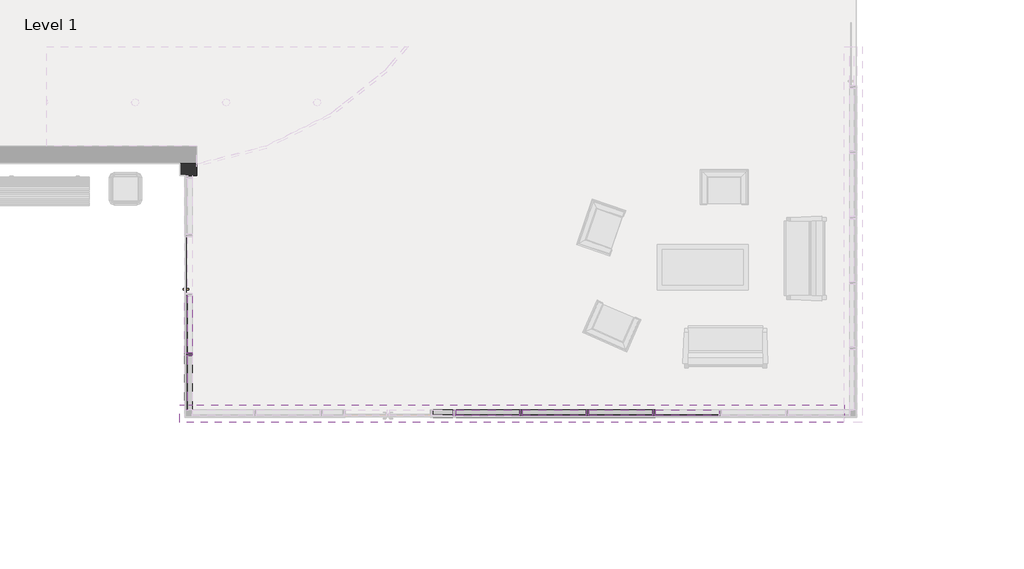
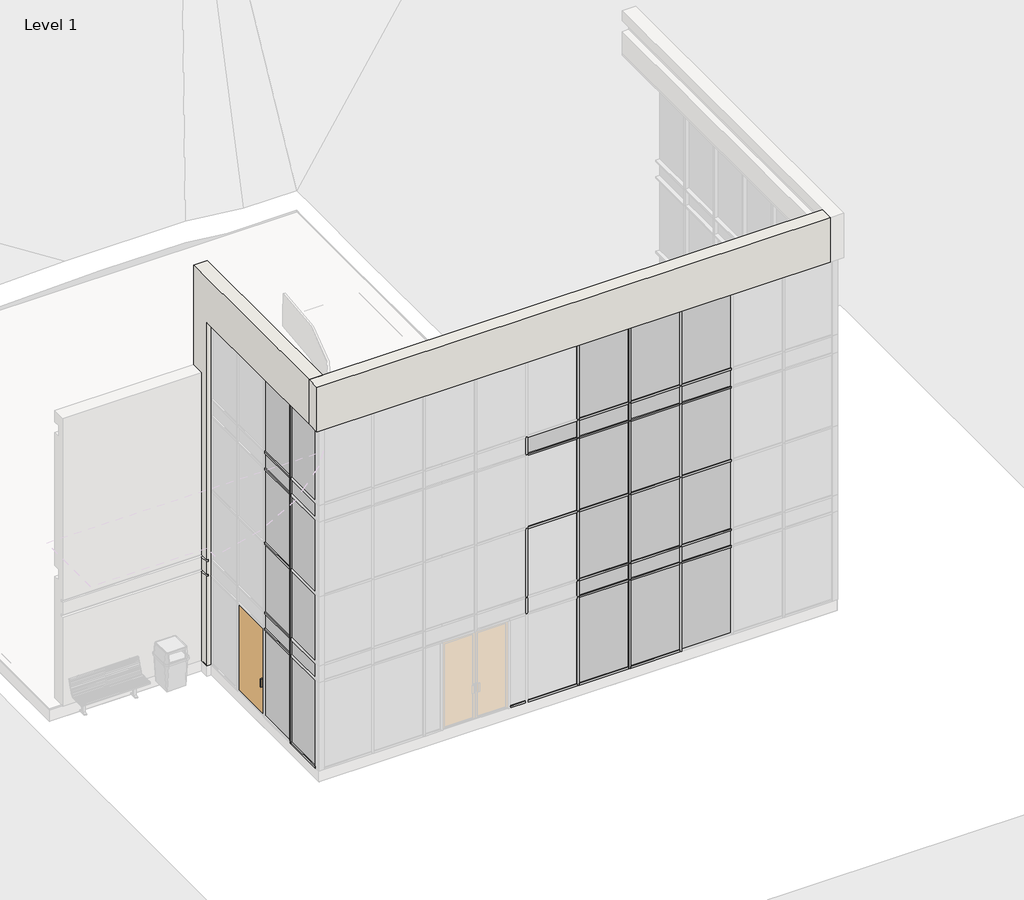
# One storey, part 2 of 6: 58 members, 31 plates, 2 walls, 1 door.
"""IFC4 building model written with IfcOpenShell, lengths in millimetres."""

from ifc_helpers import new_model, si_unit, frame, origin, place, context, project, spatial, circle_curve, faceted_brep, transform, mapped, element, save
from ifc_brep_helpers import plane_surface, cylinder_surface, advanced_brep
from components import curtain_wall_sgl_glass_curtain_wall_sgl_glass_863aa467, rectangular_mullion_50_x_150mm_9277cc62, rectangular_mullion_50_x_150mm_169d2d5c, rectangular_mullion_50_x_150mm_a98d9a75, rectangular_mullion_50_x_150mm_e5e1dcca, rectangular_mullion_50_x_150mm_47c0eb49, rectangular_mullion_50_x_150mm_2677f012, rectangular_mullion_50_x_150mm_55a91b40, rectangular_mullion_50_x_150mm_f9e96e8e, rectangular_mullion_50_x_150mm_1c0c8fcc, rectangular_mullion_50_x_150mm_5d9cdbe7, rectangular_mullion_50_x_150mm_6df5bc23, rectangular_mullion_50_x_150mm_c664ab49, rectangular_mullion_50_x_150mm_22f77a7a, system_panel_glazed_ba6276c6, system_panel_glazed_2755e160, system_panel_glazed_d3095f7c, system_panel_glazed_9a941065, system_panel_glazed_23c7b05c, system_panel_glazed_fb6efac8, system_panel_glazed_b5f236a0, system_panel_glazed_aa2b9898, system_panel_glazed_3706a5cf, system_panel_glazed_fdcf631f, system_panel_glazed_b287760b, system_panel_glazed_29643dd6, system_panel_glazed_af9e971b, system_panel_glazed_48c6fd0a, system_panel_glazed_b5705625, system_panel_glazed_869bd01b

model = new_model("IFC4")

# Units and contexts
model_context = context("Model", 3, world=origin())
ifc_project = project(units=[si_unit("LENGTHUNIT", "METRE", prefix="MILLI")], contexts=[model_context])

# Site, building, storey
site = spatial("IfcSite", under=ifc_project)
building = spatial("IfcBuilding", under=site)
storey = spatial("IfcBuildingStorey", under=building, Name="Level 1", Elevation=45720.0)

# Door
placement = place(None, origin())
curtain_wall_sgl_glass_curtain_wall_sgl_glass_shape = curtain_wall_sgl_glass_curtain_wall_sgl_glass_863aa467(model_context)
element("IfcDoor", 1, ObjectType="Curtain Wall Sgl Glass : Curtain Wall Sgl Glass", at=placement, inside=storey, context=model_context, shape_type="MappedRepresentation", body=[
    mapped(curtain_wall_sgl_glass_curtain_wall_sgl_glass_shape, transform((-10125.6188072, -5116.8998862, 45720.0), x_axis=(0.0, 1.0, 0.0), y_axis=(-1.0, 0.0, 0.0), z_axis=(0.0, 0.0, 1.0))),
])

# Members
rectangular_mullion_50_x_150mm_shape = rectangular_mullion_50_x_150mm_9277cc62(model_context)
element("IfcMember", 2, ObjectType="Rectangular Mullion : 50 x 150mm", at=placement, inside=storey, context=model_context, shape_type="MappedRepresentation", body=[
    mapped(rectangular_mullion_50_x_150mm_shape, transform((-10125.6188072, -6887.3623862, 55168.8), x_axis=(0.0, 0.0, 1.0), y_axis=(-1.0, 0.0, 0.0), z_axis=(0.0, -1.0, 0.0))),
])
rectangular_mullion_50_x_150mm_2_shape = rectangular_mullion_50_x_150mm_169d2d5c(model_context)
element("IfcMember", 3, ObjectType="Rectangular Mullion : 50 x 150mm", at=placement, inside=storey, context=model_context, shape_type="MappedRepresentation", body=[
    mapped(rectangular_mullion_50_x_150mm_2_shape, transform((-10125.6188072, -6887.3623862, 48158.4), x_axis=(0.0, 0.0, 1.0), y_axis=(-1.0, 0.0, 0.0), z_axis=(0.0, -1.0, 0.0))),
])
element("IfcMember", 4, ObjectType="Rectangular Mullion : 50 x 150mm", at=placement, inside=storey, context=model_context, shape_type="MappedRepresentation", body=[
    mapped(rectangular_mullion_50_x_150mm_2_shape, transform((-10125.6188072, -6887.3623862, 50520.0), x_axis=(0.0, 0.0, 1.0), y_axis=(-1.0, 0.0, 0.0), z_axis=(0.0, -1.0, 0.0))),
])
element("IfcMember", 5, ObjectType="Rectangular Mullion : 50 x 150mm", at=placement, inside=storey, context=model_context, shape_type="MappedRepresentation", body=[
    mapped(rectangular_mullion_50_x_150mm_2_shape, transform((-10125.6188072, -6887.3623862, 53035.2), x_axis=(0.0, 0.0, 1.0), y_axis=(-1.0, 0.0, 0.0), z_axis=(0.0, -1.0, 0.0))),
])
element("IfcMember", 6, ObjectType="Rectangular Mullion : 50 x 150mm", at=placement, inside=storey, context=model_context, shape_type="MappedRepresentation", body=[
    mapped(rectangular_mullion_50_x_150mm_2_shape, transform((-10125.6188072, -6887.3623862, 48615.6), x_axis=(0.0, 0.0, 1.0), y_axis=(-1.0, 0.0, 0.0), z_axis=(0.0, -1.0, 0.0))),
])
element("IfcMember", 7, ObjectType="Rectangular Mullion : 50 x 150mm", at=placement, inside=storey, context=model_context, shape_type="MappedRepresentation", body=[
    mapped(rectangular_mullion_50_x_150mm_2_shape, transform((-10125.6188072, -6887.3623862, 52578.0), x_axis=(0.0, 0.0, 1.0), y_axis=(-1.0, 0.0, 0.0), z_axis=(0.0, -1.0, 0.0))),
])
rectangular_mullion_50_x_150mm_3_shape = rectangular_mullion_50_x_150mm_a98d9a75(model_context)
element("IfcMember", 8, ObjectType="Rectangular Mullion : 50 x 150mm", at=placement, inside=storey, context=model_context, shape_type="MappedRepresentation", body=[
    mapped(rectangular_mullion_50_x_150mm_3_shape, transform((-10125.6188072, -6912.3623862, 45720.0), x_axis=(0.0, -1.0, 0.0), y_axis=(-1.0, 0.0, 0.0), z_axis=(0.0, 0.0, -1.0))),
])
rectangular_mullion_50_x_150mm_4_shape = rectangular_mullion_50_x_150mm_e5e1dcca(model_context)
element("IfcMember", 9, ObjectType="Rectangular Mullion : 50 x 150mm", at=placement, inside=storey, context=model_context, shape_type="MappedRepresentation", body=[
    mapped(rectangular_mullion_50_x_150mm_4_shape, transform((-10125.6188072, -6912.3623862, 48158.4), x_axis=(0.0, -1.0, 0.0), y_axis=(-1.0, 0.0, 0.0), z_axis=(0.0, 0.0, -1.0))),
])
element("IfcMember", 10, ObjectType="Rectangular Mullion : 50 x 150mm", at=placement, inside=storey, context=model_context, shape_type="MappedRepresentation", body=[
    mapped(rectangular_mullion_50_x_150mm_4_shape, transform((-10125.6188072, -6912.3623862, 52578.0), x_axis=(0.0, -1.0, 0.0), y_axis=(-1.0, 0.0, 0.0), z_axis=(0.0, 0.0, -1.0))),
])
rectangular_mullion_50_x_150mm_5_shape = rectangular_mullion_50_x_150mm_47c0eb49(model_context)
element("IfcMember", 11, ObjectType="Rectangular Mullion : 50 x 150mm", at=placement, inside=storey, context=model_context, shape_type="MappedRepresentation", body=[
    mapped(rectangular_mullion_50_x_150mm_5_shape, transform((-10125.6188072, -6912.3623862, 50520.0), x_axis=(0.0, -1.0, 0.0), y_axis=(-1.0, 0.0, 0.0), z_axis=(0.0, 0.0, -1.0))),
])
rectangular_mullion_50_x_150mm_6_shape = rectangular_mullion_50_x_150mm_2677f012(model_context)
element("IfcMember", 12, ObjectType="Rectangular Mullion : 50 x 150mm", at=placement, inside=storey, context=model_context, shape_type="MappedRepresentation", body=[
    mapped(rectangular_mullion_50_x_150mm_6_shape, transform((-10125.6188072, -6912.3623862, 53035.2), x_axis=(0.0, -1.0, 0.0), y_axis=(-1.0, 0.0, 0.0), z_axis=(0.0, 0.0, -1.0))),
])
rectangular_mullion_50_x_150mm_7_shape = rectangular_mullion_50_x_150mm_55a91b40(model_context)
element("IfcMember", 13, ObjectType="Rectangular Mullion : 50 x 150mm", at=placement, inside=storey, context=model_context, shape_type="MappedRepresentation", body=[
    mapped(rectangular_mullion_50_x_150mm_7_shape, transform((-10125.6188072, -6912.3623862, 48615.6), x_axis=(0.0, -1.0, 0.0), y_axis=(-1.0, 0.0, 0.0), z_axis=(0.0, 0.0, -1.0))),
])
rectangular_mullion_50_x_150mm_8_shape = rectangular_mullion_50_x_150mm_f9e96e8e(model_context)
element("IfcMember", 14, ObjectType="Rectangular Mullion : 50 x 150mm", at=placement, inside=storey, context=model_context, shape_type="MappedRepresentation", body=[
    mapped(rectangular_mullion_50_x_150mm_8_shape, transform((-10125.6188072, -6937.3623862, 45720.0), x_axis=(0.0, 0.0, -1.0), y_axis=(-1.0, 0.0, 0.0), z_axis=(0.0, 1.0, 0.0))),
])
element("IfcMember", 15, ObjectType="Rectangular Mullion : 50 x 150mm", at=placement, inside=storey, context=model_context, shape_type="MappedRepresentation", body=[
    mapped(rectangular_mullion_50_x_150mm_4_shape, transform((-2107.4738072, -8109.3373862, 48158.4), x_axis=(-1.0, 0.0, 0.0), y_axis=(0.0, 1.0, 0.0), z_axis=(0.0, 0.0, -1.0))),
])
element("IfcMember", 16, ObjectType="Rectangular Mullion : 50 x 150mm", at=placement, inside=storey, context=model_context, shape_type="MappedRepresentation", body=[
    mapped(rectangular_mullion_50_x_150mm_4_shape, transform((-771.1163072, -8109.3373862, 48158.4), x_axis=(-1.0, 0.0, 0.0), y_axis=(0.0, 1.0, 0.0), z_axis=(0.0, 0.0, -1.0))),
])
element("IfcMember", 17, ObjectType="Rectangular Mullion : 50 x 150mm", at=placement, inside=storey, context=model_context, shape_type="MappedRepresentation", body=[
    mapped(rectangular_mullion_50_x_150mm_4_shape, transform((-3443.8313072, -8109.3373862, 48158.4), x_axis=(-1.0, 0.0, 0.0), y_axis=(0.0, 1.0, 0.0), z_axis=(0.0, 0.0, -1.0))),
])
element("IfcMember", 18, ObjectType="Rectangular Mullion : 50 x 150mm", at=placement, inside=storey, context=model_context, shape_type="MappedRepresentation", body=[
    mapped(rectangular_mullion_50_x_150mm_4_shape, transform((-4780.1888072, -8109.3373862, 48158.4), x_axis=(-1.0, 0.0, 0.0), y_axis=(0.0, 1.0, 0.0), z_axis=(0.0, 0.0, -1.0))),
])
element("IfcMember", 19, ObjectType="Rectangular Mullion : 50 x 150mm", at=placement, inside=storey, context=model_context, shape_type="MappedRepresentation", body=[
    mapped(rectangular_mullion_50_x_150mm_7_shape, transform((-2107.4738072, -8109.3373862, 48615.6), x_axis=(-1.0, 0.0, 0.0), y_axis=(0.0, 1.0, 0.0), z_axis=(0.0, 0.0, -1.0))),
])
element("IfcMember", 20, ObjectType="Rectangular Mullion : 50 x 150mm", at=placement, inside=storey, context=model_context, shape_type="MappedRepresentation", body=[
    mapped(rectangular_mullion_50_x_150mm_7_shape, transform((-771.1163072, -8109.3373862, 48615.6), x_axis=(-1.0, 0.0, 0.0), y_axis=(0.0, 1.0, 0.0), z_axis=(0.0, 0.0, -1.0))),
])
element("IfcMember", 21, ObjectType="Rectangular Mullion : 50 x 150mm", at=placement, inside=storey, context=model_context, shape_type="MappedRepresentation", body=[
    mapped(rectangular_mullion_50_x_150mm_7_shape, transform((-3443.8313072, -8109.3373862, 48615.6), x_axis=(-1.0, 0.0, 0.0), y_axis=(0.0, 1.0, 0.0), z_axis=(0.0, 0.0, -1.0))),
])
element("IfcMember", 22, ObjectType="Rectangular Mullion : 50 x 150mm", at=placement, inside=storey, context=model_context, shape_type="MappedRepresentation", body=[
    mapped(rectangular_mullion_50_x_150mm_7_shape, transform((-4780.1888072, -8109.3373862, 48615.6), x_axis=(-1.0, 0.0, 0.0), y_axis=(0.0, 1.0, 0.0), z_axis=(0.0, 0.0, -1.0))),
])
element("IfcMember", 23, ObjectType="Rectangular Mullion : 50 x 150mm", at=placement, inside=storey, context=model_context, shape_type="MappedRepresentation", body=[
    mapped(rectangular_mullion_50_x_150mm_6_shape, transform((-3443.8313072, -8109.3373862, 53035.2), x_axis=(-1.0, 0.0, 0.0), y_axis=(0.0, 1.0, 0.0), z_axis=(0.0, 0.0, -1.0))),
])
element("IfcMember", 24, ObjectType="Rectangular Mullion : 50 x 150mm", at=placement, inside=storey, context=model_context, shape_type="MappedRepresentation", body=[
    mapped(rectangular_mullion_50_x_150mm_6_shape, transform((-2107.4738072, -8109.3373862, 53035.2), x_axis=(-1.0, 0.0, 0.0), y_axis=(0.0, 1.0, 0.0), z_axis=(0.0, 0.0, -1.0))),
])
element("IfcMember", 25, ObjectType="Rectangular Mullion : 50 x 150mm", at=placement, inside=storey, context=model_context, shape_type="MappedRepresentation", body=[
    mapped(rectangular_mullion_50_x_150mm_6_shape, transform((-771.1163072, -8109.3373862, 53035.2), x_axis=(-1.0, 0.0, 0.0), y_axis=(0.0, 1.0, 0.0), z_axis=(0.0, 0.0, -1.0))),
])
element("IfcMember", 26, ObjectType="Rectangular Mullion : 50 x 150mm", at=placement, inside=storey, context=model_context, shape_type="MappedRepresentation", body=[
    mapped(rectangular_mullion_50_x_150mm_3_shape, transform((-3443.8313072, -8109.3373862, 45720.0), x_axis=(-1.0, 0.0, 0.0), y_axis=(0.0, 1.0, 0.0), z_axis=(0.0, 0.0, -1.0))),
])
element("IfcMember", 27, ObjectType="Rectangular Mullion : 50 x 150mm", at=placement, inside=storey, context=model_context, shape_type="MappedRepresentation", body=[
    mapped(rectangular_mullion_50_x_150mm_3_shape, transform((-2107.4738072, -8109.3373862, 45720.0), x_axis=(-1.0, 0.0, 0.0), y_axis=(0.0, 1.0, 0.0), z_axis=(0.0, 0.0, -1.0))),
])
element("IfcMember", 28, ObjectType="Rectangular Mullion : 50 x 150mm", at=placement, inside=storey, context=model_context, shape_type="MappedRepresentation", body=[
    mapped(rectangular_mullion_50_x_150mm_3_shape, transform((-771.1163072, -8109.3373862, 45720.0), x_axis=(-1.0, 0.0, 0.0), y_axis=(0.0, 1.0, 0.0), z_axis=(0.0, 0.0, -1.0))),
])
rectangular_mullion_50_x_150mm_9_shape = rectangular_mullion_50_x_150mm_1c0c8fcc(model_context)
element("IfcMember", 29, ObjectType="Rectangular Mullion : 50 x 150mm", at=placement, inside=storey, context=model_context, shape_type="MappedRepresentation", body=[
    mapped(rectangular_mullion_50_x_150mm_9_shape, transform((-2082.4738072, -8109.3373862, 48615.6), x_axis=(0.0, 0.0, 1.0), y_axis=(0.0, 1.0, 0.0), z_axis=(-1.0, 0.0, 0.0))),
])
element("IfcMember", 30, ObjectType="Rectangular Mullion : 50 x 150mm", at=placement, inside=storey, context=model_context, shape_type="MappedRepresentation", body=[
    mapped(rectangular_mullion_50_x_150mm_9_shape, transform((-3418.8313072, -8109.3373862, 48615.6), x_axis=(0.0, 0.0, 1.0), y_axis=(0.0, 1.0, 0.0), z_axis=(-1.0, 0.0, 0.0))),
])
element("IfcMember", 31, ObjectType="Rectangular Mullion : 50 x 150mm", at=placement, inside=storey, context=model_context, shape_type="MappedRepresentation", body=[
    mapped(rectangular_mullion_50_x_150mm_9_shape, transform((-746.1163072, -8109.3373862, 48615.6), x_axis=(0.0, 0.0, 1.0), y_axis=(0.0, 1.0, 0.0), z_axis=(-1.0, 0.0, 0.0))),
])
element("IfcMember", 32, ObjectType="Rectangular Mullion : 50 x 150mm", at=placement, inside=storey, context=model_context, shape_type="MappedRepresentation", body=[
    mapped(rectangular_mullion_50_x_150mm_9_shape, transform((-2082.4738072, -8109.3373862, 48158.4), x_axis=(0.0, 0.0, 1.0), y_axis=(0.0, 1.0, 0.0), z_axis=(-1.0, 0.0, 0.0))),
])
element("IfcMember", 33, ObjectType="Rectangular Mullion : 50 x 150mm", at=placement, inside=storey, context=model_context, shape_type="MappedRepresentation", body=[
    mapped(rectangular_mullion_50_x_150mm_9_shape, transform((-3418.8313072, -8109.3373862, 48158.4), x_axis=(0.0, 0.0, 1.0), y_axis=(0.0, 1.0, 0.0), z_axis=(-1.0, 0.0, 0.0))),
])
element("IfcMember", 34, ObjectType="Rectangular Mullion : 50 x 150mm", at=placement, inside=storey, context=model_context, shape_type="MappedRepresentation", body=[
    mapped(rectangular_mullion_50_x_150mm_9_shape, transform((-746.1163072, -8109.3373862, 48158.4), x_axis=(0.0, 0.0, 1.0), y_axis=(0.0, 1.0, 0.0), z_axis=(-1.0, 0.0, 0.0))),
])
element("IfcMember", 35, ObjectType="Rectangular Mullion : 50 x 150mm", at=placement, inside=storey, context=model_context, shape_type="MappedRepresentation", body=[
    mapped(rectangular_mullion_50_x_150mm_9_shape, transform((-2082.4738072, -8109.3373862, 53035.2), x_axis=(0.0, 0.0, 1.0), y_axis=(0.0, 1.0, 0.0), z_axis=(-1.0, 0.0, 0.0))),
])
element("IfcMember", 36, ObjectType="Rectangular Mullion : 50 x 150mm", at=placement, inside=storey, context=model_context, shape_type="MappedRepresentation", body=[
    mapped(rectangular_mullion_50_x_150mm_9_shape, transform((-3418.8313072, -8109.3373862, 53035.2), x_axis=(0.0, 0.0, 1.0), y_axis=(0.0, 1.0, 0.0), z_axis=(-1.0, 0.0, 0.0))),
])
element("IfcMember", 37, ObjectType="Rectangular Mullion : 50 x 150mm", at=placement, inside=storey, context=model_context, shape_type="MappedRepresentation", body=[
    mapped(rectangular_mullion_50_x_150mm_9_shape, transform((-746.1163072, -8109.3373862, 53035.2), x_axis=(0.0, 0.0, 1.0), y_axis=(0.0, 1.0, 0.0), z_axis=(-1.0, 0.0, 0.0))),
])
element("IfcMember", 38, ObjectType="Rectangular Mullion : 50 x 150mm", at=placement, inside=storey, context=model_context, shape_type="MappedRepresentation", body=[
    mapped(rectangular_mullion_50_x_150mm_9_shape, transform((-746.1163072, -8109.3373862, 50520.0), x_axis=(0.0, 0.0, 1.0), y_axis=(0.0, 1.0, 0.0), z_axis=(-1.0, 0.0, 0.0))),
])
element("IfcMember", 39, ObjectType="Rectangular Mullion : 50 x 150mm", at=placement, inside=storey, context=model_context, shape_type="MappedRepresentation", body=[
    mapped(rectangular_mullion_50_x_150mm_9_shape, transform((-4755.1888072, -8109.3373862, 50520.0), x_axis=(0.0, 0.0, 1.0), y_axis=(0.0, 1.0, 0.0), z_axis=(-1.0, 0.0, 0.0))),
])
element("IfcMember", 40, ObjectType="Rectangular Mullion : 50 x 150mm", at=placement, inside=storey, context=model_context, shape_type="MappedRepresentation", body=[
    mapped(rectangular_mullion_50_x_150mm_9_shape, transform((-3418.8313072, -8109.3373862, 50520.0), x_axis=(0.0, 0.0, 1.0), y_axis=(0.0, 1.0, 0.0), z_axis=(-1.0, 0.0, 0.0))),
])
element("IfcMember", 41, ObjectType="Rectangular Mullion : 50 x 150mm", at=placement, inside=storey, context=model_context, shape_type="MappedRepresentation", body=[
    mapped(rectangular_mullion_50_x_150mm_9_shape, transform((-2082.4738072, -8109.3373862, 50520.0), x_axis=(0.0, 0.0, 1.0), y_axis=(0.0, 1.0, 0.0), z_axis=(-1.0, 0.0, 0.0))),
])
element("IfcMember", 42, ObjectType="Rectangular Mullion : 50 x 150mm", at=placement, inside=storey, context=model_context, shape_type="MappedRepresentation", body=[
    mapped(rectangular_mullion_50_x_150mm_9_shape, transform((-2082.4738072, -8109.3373862, 52535.2), x_axis=(0.0, 0.0, 1.0), y_axis=(0.0, 1.0, 0.0), z_axis=(-1.0, 0.0, 0.0))),
])
element("IfcMember", 43, ObjectType="Rectangular Mullion : 50 x 150mm", at=placement, inside=storey, context=model_context, shape_type="MappedRepresentation", body=[
    mapped(rectangular_mullion_50_x_150mm_9_shape, transform((-4755.1888072, -8109.3373862, 52535.2), x_axis=(0.0, 0.0, 1.0), y_axis=(0.0, 1.0, 0.0), z_axis=(-1.0, 0.0, 0.0))),
])
element("IfcMember", 44, ObjectType="Rectangular Mullion : 50 x 150mm", at=placement, inside=storey, context=model_context, shape_type="MappedRepresentation", body=[
    mapped(rectangular_mullion_50_x_150mm_9_shape, transform((-746.1163072, -8109.3373862, 52535.2), x_axis=(0.0, 0.0, 1.0), y_axis=(0.0, 1.0, 0.0), z_axis=(-1.0, 0.0, 0.0))),
])
element("IfcMember", 45, ObjectType="Rectangular Mullion : 50 x 150mm", at=placement, inside=storey, context=model_context, shape_type="MappedRepresentation", body=[
    mapped(rectangular_mullion_50_x_150mm_9_shape, transform((-3418.8313072, -8109.3373862, 52535.2), x_axis=(0.0, 0.0, 1.0), y_axis=(0.0, 1.0, 0.0), z_axis=(-1.0, 0.0, 0.0))),
])
rectangular_mullion_50_x_150mm_10_shape = rectangular_mullion_50_x_150mm_5d9cdbe7(model_context)
element("IfcMember", 46, ObjectType="Rectangular Mullion : 50 x 150mm", at=placement, inside=storey, context=model_context, shape_type="MappedRepresentation", body=[
    mapped(rectangular_mullion_50_x_150mm_10_shape, transform((-796.1163072, -8109.3373862, 45720.0), x_axis=(0.0, 0.0, -1.0), y_axis=(0.0, 1.0, 0.0), z_axis=(1.0, 0.0, 0.0))),
])
element("IfcMember", 47, ObjectType="Rectangular Mullion : 50 x 150mm", at=placement, inside=storey, context=model_context, shape_type="MappedRepresentation", body=[
    mapped(rectangular_mullion_50_x_150mm_10_shape, transform((-2132.4738072, -8109.3373862, 45720.0), x_axis=(0.0, 0.0, -1.0), y_axis=(0.0, 1.0, 0.0), z_axis=(1.0, 0.0, 0.0))),
])
element("IfcMember", 48, ObjectType="Rectangular Mullion : 50 x 150mm", at=placement, inside=storey, context=model_context, shape_type="MappedRepresentation", body=[
    mapped(rectangular_mullion_50_x_150mm_10_shape, transform((-3468.8313072, -8109.3373862, 45720.0), x_axis=(0.0, 0.0, -1.0), y_axis=(0.0, 1.0, 0.0), z_axis=(1.0, 0.0, 0.0))),
])
element("IfcMember", 49, ObjectType="Rectangular Mullion : 50 x 150mm", at=placement, inside=storey, context=model_context, shape_type="MappedRepresentation", body=[
    mapped(rectangular_mullion_50_x_150mm_10_shape, transform((-3418.8313072, -8109.3373862, 55168.8), x_axis=(0.0, 0.0, 1.0), y_axis=(0.0, 1.0, 0.0), z_axis=(-1.0, 0.0, 0.0))),
])
element("IfcMember", 50, ObjectType="Rectangular Mullion : 50 x 150mm", at=placement, inside=storey, context=model_context, shape_type="MappedRepresentation", body=[
    mapped(rectangular_mullion_50_x_150mm_10_shape, transform((-2082.4738072, -8109.3373862, 55168.8), x_axis=(0.0, 0.0, 1.0), y_axis=(0.0, 1.0, 0.0), z_axis=(-1.0, 0.0, 0.0))),
])
element("IfcMember", 51, ObjectType="Rectangular Mullion : 50 x 150mm", at=placement, inside=storey, context=model_context, shape_type="MappedRepresentation", body=[
    mapped(rectangular_mullion_50_x_150mm_10_shape, transform((-746.1163072, -8109.3373862, 55168.8), x_axis=(0.0, 0.0, 1.0), y_axis=(0.0, 1.0, 0.0), z_axis=(-1.0, 0.0, 0.0))),
])
rectangular_mullion_50_x_150mm_11_shape = rectangular_mullion_50_x_150mm_6df5bc23(model_context)
element("IfcMember", 52, ObjectType="Rectangular Mullion : 50 x 150mm", at=placement, inside=storey, context=model_context, shape_type="MappedRepresentation", body=[
    mapped(rectangular_mullion_50_x_150mm_11_shape, transform((-4805.1888072, -8109.3373862, 45720.0), x_axis=(0.0, 0.0, -1.0), y_axis=(0.0, 1.0, 0.0), z_axis=(1.0, 0.0, 0.0))),
])
rectangular_mullion_50_x_150mm_12_shape = rectangular_mullion_50_x_150mm_c664ab49(model_context)
element("IfcMember", 53, ObjectType="Rectangular Mullion : 50 x 150mm", at=placement, inside=storey, context=model_context, shape_type="MappedRepresentation", body=[
    mapped(rectangular_mullion_50_x_150mm_12_shape, transform((-2107.4738072, -8109.3373862, 50520.0), x_axis=(-1.0, 0.0, 0.0), y_axis=(0.0, 1.0, 0.0), z_axis=(0.0, 0.0, -1.0))),
])
element("IfcMember", 54, ObjectType="Rectangular Mullion : 50 x 150mm", at=placement, inside=storey, context=model_context, shape_type="MappedRepresentation", body=[
    mapped(rectangular_mullion_50_x_150mm_12_shape, transform((-771.1163072, -8109.3373862, 50520.0), x_axis=(-1.0, 0.0, 0.0), y_axis=(0.0, 1.0, 0.0), z_axis=(0.0, 0.0, -1.0))),
])
element("IfcMember", 55, ObjectType="Rectangular Mullion : 50 x 150mm", at=placement, inside=storey, context=model_context, shape_type="MappedRepresentation", body=[
    mapped(rectangular_mullion_50_x_150mm_12_shape, transform((-3443.8313072, -8109.3373862, 50520.0), x_axis=(-1.0, 0.0, 0.0), y_axis=(0.0, 1.0, 0.0), z_axis=(0.0, 0.0, -1.0))),
])
rectangular_mullion_50_x_150mm_13_shape = rectangular_mullion_50_x_150mm_22f77a7a(model_context)
element("IfcMember", 56, ObjectType="Rectangular Mullion : 50 x 150mm", at=placement, inside=storey, context=model_context, shape_type="MappedRepresentation", body=[
    mapped(rectangular_mullion_50_x_150mm_13_shape, transform((-2107.4738072, -8109.3373862, 52535.2), x_axis=(-1.0, 0.0, 0.0), y_axis=(0.0, 1.0, 0.0), z_axis=(0.0, 0.0, -1.0))),
])
element("IfcMember", 57, ObjectType="Rectangular Mullion : 50 x 150mm", at=placement, inside=storey, context=model_context, shape_type="MappedRepresentation", body=[
    mapped(rectangular_mullion_50_x_150mm_13_shape, transform((-771.1163072, -8109.3373862, 52535.2), x_axis=(-1.0, 0.0, 0.0), y_axis=(0.0, 1.0, 0.0), z_axis=(0.0, 0.0, -1.0))),
])
element("IfcMember", 58, ObjectType="Rectangular Mullion : 50 x 150mm", at=placement, inside=storey, context=model_context, shape_type="MappedRepresentation", body=[
    mapped(rectangular_mullion_50_x_150mm_13_shape, transform((-3443.8313072, -8109.3373862, 52535.2), x_axis=(-1.0, 0.0, 0.0), y_axis=(0.0, 1.0, 0.0), z_axis=(0.0, 0.0, -1.0))),
])
element("IfcMember", 59, ObjectType="Rectangular Mullion : 50 x 150mm", at=placement, inside=storey, context=model_context, shape_type="MappedRepresentation", body=[
    mapped(rectangular_mullion_50_x_150mm_13_shape, transform((-4780.1888072, -8109.3373862, 52535.2), x_axis=(-1.0, 0.0, 0.0), y_axis=(0.0, 1.0, 0.0), z_axis=(0.0, 0.0, -1.0))),
])

# Plates
system_panel_glazed_shape = system_panel_glazed_ba6276c6(model_context)
element("IfcPlate", 60, ObjectType="System Panel : Glazed", at=placement, inside=storey, context=model_context, shape_type="MappedRepresentation", body=[
    mapped(system_panel_glazed_shape, transform((-10125.6188072, -6313.8748862, 45770.0), x_axis=(0.0, -1.0, 0.0), y_axis=(1.0, 0.0, 0.0), z_axis=(0.0, 0.0, 1.0))),
])
system_panel_glazed_2_shape = system_panel_glazed_2755e160(model_context)
element("IfcPlate", 61, ObjectType="System Panel : Glazed", at=placement, inside=storey, context=model_context, shape_type="MappedRepresentation", body=[
    mapped(system_panel_glazed_2_shape, transform((-10125.6188072, -6313.8748862, 48183.4), x_axis=(0.0, -1.0, 0.0), y_axis=(1.0, 0.0, 0.0), z_axis=(0.0, 0.0, 1.0))),
])
element("IfcPlate", 62, ObjectType="System Panel : Glazed", at=placement, inside=storey, context=model_context, shape_type="MappedRepresentation", body=[
    mapped(system_panel_glazed_2_shape, transform((-10125.6188072, -6313.8748862, 52603.0), x_axis=(0.0, -1.0, 0.0), y_axis=(1.0, 0.0, 0.0), z_axis=(0.0, 0.0, 1.0))),
])
system_panel_glazed_3_shape = system_panel_glazed_d3095f7c(model_context)
element("IfcPlate", 63, ObjectType="System Panel : Glazed", at=placement, inside=storey, context=model_context, shape_type="MappedRepresentation", body=[
    mapped(system_panel_glazed_3_shape, transform((-10125.6188072, -6313.8748862, 50545.0), x_axis=(0.0, -1.0, 0.0), y_axis=(1.0, 0.0, 0.0), z_axis=(0.0, 0.0, 1.0))),
])
system_panel_glazed_4_shape = system_panel_glazed_9a941065(model_context)
element("IfcPlate", 64, ObjectType="System Panel : Glazed", at=placement, inside=storey, context=model_context, shape_type="MappedRepresentation", body=[
    mapped(system_panel_glazed_4_shape, transform((-10125.6188072, -6313.8748862, 53060.2), x_axis=(0.0, -1.0, 0.0), y_axis=(1.0, 0.0, 0.0), z_axis=(0.0, 0.0, 1.0))),
])
system_panel_glazed_5_shape = system_panel_glazed_23c7b05c(model_context)
element("IfcPlate", 65, ObjectType="System Panel : Glazed", at=placement, inside=storey, context=model_context, shape_type="MappedRepresentation", body=[
    mapped(system_panel_glazed_5_shape, transform((-10125.6188072, -6313.8748862, 48640.6), x_axis=(0.0, -1.0, 0.0), y_axis=(1.0, 0.0, 0.0), z_axis=(0.0, 0.0, 1.0))),
])
system_panel_glazed_6_shape = system_panel_glazed_fb6efac8(model_context)
element("IfcPlate", 66, ObjectType="System Panel : Glazed", at=placement, inside=storey, context=model_context, shape_type="MappedRepresentation", body=[
    mapped(system_panel_glazed_6_shape, transform((-10125.6188072, -7485.8498862, 48183.4), x_axis=(0.0, -1.0, 0.0), y_axis=(1.0, 0.0, 0.0), z_axis=(0.0, 0.0, 1.0))),
])
element("IfcPlate", 67, ObjectType="System Panel : Glazed", at=placement, inside=storey, context=model_context, shape_type="MappedRepresentation", body=[
    mapped(system_panel_glazed_6_shape, transform((-10125.6188072, -7485.8498862, 52603.0), x_axis=(0.0, -1.0, 0.0), y_axis=(1.0, 0.0, 0.0), z_axis=(0.0, 0.0, 1.0))),
])
system_panel_glazed_7_shape = system_panel_glazed_b5f236a0(model_context)
element("IfcPlate", 68, ObjectType="System Panel : Glazed", at=placement, inside=storey, context=model_context, shape_type="MappedRepresentation", body=[
    mapped(system_panel_glazed_7_shape, transform((-10125.6188072, -7485.8498862, 50545.0), x_axis=(0.0, -1.0, 0.0), y_axis=(1.0, 0.0, 0.0), z_axis=(0.0, 0.0, 1.0))),
])
system_panel_glazed_8_shape = system_panel_glazed_aa2b9898(model_context)
element("IfcPlate", 69, ObjectType="System Panel : Glazed", at=placement, inside=storey, context=model_context, shape_type="MappedRepresentation", body=[
    mapped(system_panel_glazed_8_shape, transform((-10125.6188072, -7485.8498862, 53060.2), x_axis=(0.0, -1.0, 0.0), y_axis=(1.0, 0.0, 0.0), z_axis=(0.0, 0.0, 1.0))),
])
system_panel_glazed_9_shape = system_panel_glazed_3706a5cf(model_context)
element("IfcPlate", 70, ObjectType="System Panel : Glazed", at=placement, inside=storey, context=model_context, shape_type="MappedRepresentation", body=[
    mapped(system_panel_glazed_9_shape, transform((-10125.6188072, -7485.8498862, 48640.6), x_axis=(0.0, -1.0, 0.0), y_axis=(1.0, 0.0, 0.0), z_axis=(0.0, 0.0, 1.0))),
])
system_panel_glazed_10_shape = system_panel_glazed_fdcf631f(model_context)
element("IfcPlate", 71, ObjectType="System Panel : Glazed", at=placement, inside=storey, context=model_context, shape_type="MappedRepresentation", body=[
    mapped(system_panel_glazed_10_shape, transform((-10125.6188072, -7485.8498862, 45770.0), x_axis=(0.0, -1.0, 0.0), y_axis=(1.0, 0.0, 0.0), z_axis=(0.0, 0.0, 1.0))),
])
system_panel_glazed_11_shape = system_panel_glazed_b287760b(model_context)
element("IfcPlate", 72, ObjectType="System Panel : Glazed", at=placement, inside=storey, context=model_context, shape_type="MappedRepresentation", body=[
    mapped(system_panel_glazed_11_shape, transform((-102.9375572, -8109.3373862, 45770.0), x_axis=(-1.0, 0.0, 0.0), y_axis=(0.0, -1.0, 0.0), z_axis=(0.0, 0.0, 1.0))),
])
element("IfcPlate", 73, ObjectType="System Panel : Glazed", at=placement, inside=storey, context=model_context, shape_type="MappedRepresentation", body=[
    mapped(system_panel_glazed_11_shape, transform((-2775.6525572, -8109.3373862, 45770.0), x_axis=(-1.0, 0.0, 0.0), y_axis=(0.0, -1.0, 0.0), z_axis=(0.0, 0.0, 1.0))),
])
element("IfcPlate", 74, ObjectType="System Panel : Glazed", at=placement, inside=storey, context=model_context, shape_type="MappedRepresentation", body=[
    mapped(system_panel_glazed_11_shape, transform((-1439.2950572, -8109.3373862, 45770.0), x_axis=(-1.0, 0.0, 0.0), y_axis=(0.0, -1.0, 0.0), z_axis=(0.0, 0.0, 1.0))),
])
system_panel_glazed_12_shape = system_panel_glazed_29643dd6(model_context)
element("IfcPlate", 75, ObjectType="System Panel : Glazed", at=placement, inside=storey, context=model_context, shape_type="MappedRepresentation", body=[
    mapped(system_panel_glazed_12_shape, transform((-102.9375572, -8109.3373862, 48183.4), x_axis=(-1.0, 0.0, 0.0), y_axis=(0.0, -1.0, 0.0), z_axis=(0.0, 0.0, 1.0))),
])
element("IfcPlate", 76, ObjectType="System Panel : Glazed", at=placement, inside=storey, context=model_context, shape_type="MappedRepresentation", body=[
    mapped(system_panel_glazed_12_shape, transform((-2775.6525572, -8109.3373862, 48183.4), x_axis=(-1.0, 0.0, 0.0), y_axis=(0.0, -1.0, 0.0), z_axis=(0.0, 0.0, 1.0))),
])
element("IfcPlate", 77, ObjectType="System Panel : Glazed", at=placement, inside=storey, context=model_context, shape_type="MappedRepresentation", body=[
    mapped(system_panel_glazed_12_shape, transform((-1439.2950572, -8109.3373862, 48183.4), x_axis=(-1.0, 0.0, 0.0), y_axis=(0.0, -1.0, 0.0), z_axis=(0.0, 0.0, 1.0))),
])
system_panel_glazed_13_shape = system_panel_glazed_af9e971b(model_context)
element("IfcPlate", 78, ObjectType="System Panel : Glazed", at=placement, inside=storey, context=model_context, shape_type="MappedRepresentation", body=[
    mapped(system_panel_glazed_13_shape, transform((-102.9375572, -8109.3373862, 48640.6), x_axis=(-1.0, 0.0, 0.0), y_axis=(0.0, -1.0, 0.0), z_axis=(0.0, 0.0, 1.0))),
])
element("IfcPlate", 79, ObjectType="System Panel : Glazed", at=placement, inside=storey, context=model_context, shape_type="MappedRepresentation", body=[
    mapped(system_panel_glazed_13_shape, transform((-2775.6525572, -8109.3373862, 48640.6), x_axis=(-1.0, 0.0, 0.0), y_axis=(0.0, -1.0, 0.0), z_axis=(0.0, 0.0, 1.0))),
])
element("IfcPlate", 80, ObjectType="System Panel : Glazed", at=placement, inside=storey, context=model_context, shape_type="MappedRepresentation", body=[
    mapped(system_panel_glazed_13_shape, transform((-1439.2950572, -8109.3373862, 48640.6), x_axis=(-1.0, 0.0, 0.0), y_axis=(0.0, -1.0, 0.0), z_axis=(0.0, 0.0, 1.0))),
])
system_panel_glazed_14_shape = system_panel_glazed_48c6fd0a(model_context)
element("IfcPlate", 81, ObjectType="System Panel : Glazed", at=placement, inside=storey, context=model_context, shape_type="MappedRepresentation", body=[
    mapped(system_panel_glazed_14_shape, transform((-102.9375572, -8109.3373862, 53060.2), x_axis=(-1.0, 0.0, 0.0), y_axis=(0.0, -1.0, 0.0), z_axis=(0.0, 0.0, 1.0))),
])
element("IfcPlate", 82, ObjectType="System Panel : Glazed", at=placement, inside=storey, context=model_context, shape_type="MappedRepresentation", body=[
    mapped(system_panel_glazed_14_shape, transform((-2775.6525572, -8109.3373862, 53060.2), x_axis=(-1.0, 0.0, 0.0), y_axis=(0.0, -1.0, 0.0), z_axis=(0.0, 0.0, 1.0))),
])
element("IfcPlate", 83, ObjectType="System Panel : Glazed", at=placement, inside=storey, context=model_context, shape_type="MappedRepresentation", body=[
    mapped(system_panel_glazed_14_shape, transform((-1439.2950572, -8109.3373862, 53060.2), x_axis=(-1.0, 0.0, 0.0), y_axis=(0.0, -1.0, 0.0), z_axis=(0.0, 0.0, 1.0))),
])
system_panel_glazed_15_shape = system_panel_glazed_b5705625(model_context)
element("IfcPlate", 84, ObjectType="System Panel : Glazed", at=placement, inside=storey, context=model_context, shape_type="MappedRepresentation", body=[
    mapped(system_panel_glazed_15_shape, transform((-102.9375572, -8109.3373862, 50545.0), x_axis=(-1.0, 0.0, 0.0), y_axis=(0.0, -1.0, 0.0), z_axis=(0.0, 0.0, 1.0))),
])
element("IfcPlate", 85, ObjectType="System Panel : Glazed", at=placement, inside=storey, context=model_context, shape_type="MappedRepresentation", body=[
    mapped(system_panel_glazed_15_shape, transform((-2775.6525572, -8109.3373862, 50545.0), x_axis=(-1.0, 0.0, 0.0), y_axis=(0.0, -1.0, 0.0), z_axis=(0.0, 0.0, 1.0))),
])
element("IfcPlate", 86, ObjectType="System Panel : Glazed", at=placement, inside=storey, context=model_context, shape_type="MappedRepresentation", body=[
    mapped(system_panel_glazed_15_shape, transform((-1439.2950572, -8109.3373862, 50545.0), x_axis=(-1.0, 0.0, 0.0), y_axis=(0.0, -1.0, 0.0), z_axis=(0.0, 0.0, 1.0))),
])
system_panel_glazed_16_shape = system_panel_glazed_869bd01b(model_context)
element("IfcPlate", 87, ObjectType="System Panel : Glazed", at=placement, inside=storey, context=model_context, shape_type="MappedRepresentation", body=[
    mapped(system_panel_glazed_16_shape, transform((-102.9375572, -8109.3373862, 52560.2), x_axis=(-1.0, 0.0, 0.0), y_axis=(0.0, -1.0, 0.0), z_axis=(0.0, 0.0, 1.0))),
])
element("IfcPlate", 88, ObjectType="System Panel : Glazed", at=placement, inside=storey, context=model_context, shape_type="MappedRepresentation", body=[
    mapped(system_panel_glazed_16_shape, transform((-1439.2950572, -8109.3373862, 52560.2), x_axis=(-1.0, 0.0, 0.0), y_axis=(0.0, -1.0, 0.0), z_axis=(0.0, 0.0, 1.0))),
])
element("IfcPlate", 89, ObjectType="System Panel : Glazed", at=placement, inside=storey, context=model_context, shape_type="MappedRepresentation", body=[
    mapped(system_panel_glazed_16_shape, transform((-2775.6525572, -8109.3373862, 52560.2), x_axis=(-1.0, 0.0, 0.0), y_axis=(0.0, -1.0, 0.0), z_axis=(0.0, 0.0, 1.0))),
])
element("IfcPlate", 90, ObjectType="System Panel : Glazed", at=placement, inside=storey, context=model_context, shape_type="MappedRepresentation", body=[
    mapped(system_panel_glazed_16_shape, transform((-4112.0100572, -8109.3373862, 52560.2), x_axis=(-1.0, 0.0, 0.0), y_axis=(0.0, -1.0, 0.0), z_axis=(0.0, 0.0, 1.0))),
])

# Walls
element("IfcWall", 91, ObjectType="Exterior - Brick on Mtl. Stud", at=placement, inside=storey, context=model_context, shape_type="Brep", body=[
    faceted_brep([(3061.2686928, -7932.6498862, 55168.8), (-9951.8313072, -7932.6498862, 55168.8), (-10301.8313072, -7932.6498862, 55168.8), (-10301.8313072, -7932.6498862, 56388.0), (-9951.8313072, -7932.6498862, 56388.0), (3061.2686928, -7932.6498862, 56388.0), (3061.2686928, -7932.6498862, 56116.5), (-9951.8313072, -7932.6498862, 56116.5), (-10116.8313072, -7932.6498862, 56116.5), (-10116.8313072, -7932.6498862, 55816.5), (-9951.8313072, -7932.6498862, 55816.5), (3061.2686928, -7932.6498862, 55816.5), (-10301.8313072, -8285.5498862, 55168.8), (3061.2686928, -8285.5498862, 55168.8), (3061.2686928, -8285.5498862, 56388.0), (-10301.8313072, -8285.5498862, 56388.0), (3061.2686928, -7933.1248862, 55168.8), (3061.2686928, -8100.5498862, 55816.5), (3061.2686928, -8100.5498862, 56116.5), (-10116.8313072, -8100.5498862, 56116.5), (-10116.8313072, -8100.5498862, 55816.5)], [[[0, 1, 2, 3, 4, 5, 6, 7, 8, 9, 10, 11]], [[12, 13, 14, 15]], [[2, 1, 0, 16, 13, 12]], [[5, 4, 3, 15, 14]], [[3, 2, 12, 15]], [[5, 14, 13, 16, 0, 11, 17, 18, 6]], [[19, 20, 9, 8]], [[20, 19, 18, 17]], [[20, 17, 11, 10, 9]], [[18, 19, 8, 7, 6]]]),
])
element("IfcWall", 92, ObjectType="Exterior - Brick on Mtl. Stud w/ Soldier Course", at=placement, inside=storey, context=model_context, shape_type="AdvancedBrep", body=[
    advanced_brep(
    [(-9951.8313072, -2722.9498862, 56388.0), (-9951.8313072, -3075.8498862, 56388.0), (-9951.8313072, -7932.6498862, 56388.0), (-9951.8313072, -7932.6498862, 56116.5), (-9951.8313072, -3075.8498862, 56116.5), (-9951.8313072, -2904.8791149, 56116.5), (-9951.8313072, -2904.8791149, 55816.5), (-9951.8313072, -3075.8498862, 55816.5), (-9951.8313072, -7932.6498862, 55816.5), (-9951.8313072, -7932.6498862, 55225.8), (-9951.8313072, -7932.6498862, 55168.8), (-9951.8313072, -3321.4373862, 55168.8), (-9951.8313072, -3321.4373862, 45720.0), (-9951.8313072, -3075.3748862, 45720.0), (-9951.8313072, -3075.3748862, 49077.6), (-9951.8313072, -3075.3748862, 49377.6), (-9951.8313072, -3075.3748862, 53644.8), (-9951.8313072, -2725.3748862, 53644.8), (-9951.8313072, -2722.9498862, 53644.8), (-10301.8313072, -7932.6498862, 56388.0), (-10301.8313072, -2722.9498862, 56388.0), (-10301.8313072, -2722.9498862, 53644.8), (-10301.8313072, -3075.3748862, 53644.8), (-10301.8313072, -3075.3748862, 48633.5), (-10301.8313072, -3321.4373862, 48633.5), (-10301.8313072, -3321.4373862, 55168.8), (-10301.8313072, -7932.6498862, 55168.8), (-10301.8313072, -3075.3748862, 45720.0), (-10301.8313072, -3321.4373862, 45720.0), (-10301.8313072, -3321.4373862, 48170.0), (-10301.8313072, -3075.3748862, 48170.0), (-10301.8313072, -3321.4373862, 48570.0), (-10301.8313072, -3075.3748862, 48570.0), (-10301.8313072, -3075.3748862, 48233.5), (-10301.8313072, -3321.4373862, 48233.5), (-10251.0313072, -3321.4373862, 48633.5), (-10251.0313072, -3321.4373862, 48570.0), (-10251.0313072, -3321.4373862, 48233.5), (-10251.0313072, -3321.4373862, 48170.0), (-10116.8313072, -7932.6498862, 55816.5), (-10116.8313072, -7932.6498862, 56116.5), (-10116.8313072, -2915.4733276, 56116.5), (-10116.8313072, -2915.4733276, 55816.5), (-10023.2212623, -2915.4733276, 55816.5), (-10023.2212623, -2915.4733276, 56116.5), (-10251.0313072, -3075.3748862, 48570.0), (-10251.0313072, -3075.3748862, 48633.5), (-10251.0313072, -3075.3748862, 48170.0), (-10251.0313072, -3075.3748862, 48233.5)],
    [
        (0, 1),
        (1, 2),
        (2, 3),
        (3, 4),
        (4, 5),
        (5, 6),
        (6, 7),
        (7, 8),
        (8, 9),
        (9, 10),
        (10, 11),
        (11, 12),
        (12, 13),
        (13, 14),
        (14, 15),
        (15, 16),
        (16, 17),
        (17, 18),
        (18, 0),
        (19, 20),
        (20, 21),
        (21, 22),
        (22, 23),
        (23, 24),
        (24, 25),
        (25, 26),
        (26, 19),
        (27, 28),
        (28, 29),
        (29, 30),
        (30, 27),
        (31, 32),
        (32, 33),
        (33, 34),
        (34, 31),
        (12, 28),
        (27, 13),
        (0, 20),
        (19, 2),
        (11, 25),
        (24, 35),
        (35, 36),
        (36, 31),
        (34, 37),
        (37, 38),
        (38, 29),
        (10, 26),
        (8, 39),
        (39, 40),
        (40, 3),
        (41, 40),
        (39, 42),
        (42, 41),
        (6, 43, circle_curve(frame((-10969.3383655, 3705.8434908, 55816.5), z_axis=(0.0, 0.0, -1.0), x_axis=(1.0, 0.0, 0.0)), 6688.570399)),
        (43, 42),
        (41, 44),
        (44, 5, circle_curve(frame((-10969.3383655, 3705.8434908, 56116.5), z_axis=(0.0, 0.0, 1.0), x_axis=(1.0, 0.0, 0.0)), 6688.570399)),
        (43, 44),
        (45, 36),
        (35, 46),
        (46, 45),
        (23, 46),
        (45, 32),
        (47, 38),
        (37, 48),
        (48, 47),
        (33, 48),
        (47, 30),
        (16, 22),
        (21, 18),
    ],
    [
        plane_surface(frame((-9951.8313072, -8228.3998862, 45720.0), z_axis=(1.0, 0.0, 0.0), x_axis=(0.0, 1.0, 0.0))),
        plane_surface(frame((-10301.8313072, -8228.3998862, 45720.0), z_axis=(-1.0, 0.0, 0.0), x_axis=(0.0, -1.0, 0.0))),
        plane_surface(frame((-9951.8313072, -8109.0998862, 45720.0), z_axis=(0.0, 0.0, -1.0), x_axis=(-1.0, 0.0, 0.0))),
        plane_surface(frame((-9951.8313072, -2899.3998862, 56388.0), z_axis=(0.0, 0.0, 1.0), x_axis=(-1.0, 0.0, 0.0))),
        plane_surface(frame((-9799.4313072, -3321.4373862, 45720.0), z_axis=(0.0, -1.0, 0.0), x_axis=(-1.0, 0.0, 0.0))),
        plane_surface(frame((-9799.4313072, -3321.4373862, 55168.8), z_axis=(0.0, 0.0, -1.0), x_axis=(-1.0, 0.0, 0.0))),
        plane_surface(frame((2537.8686928, -7932.6498862, 55168.8), z_axis=(0.0, -1.0, 0.0), x_axis=(-1.0, 0.0, 0.0))),
        plane_surface(frame((-10116.8313072, -2915.4733276, 10058.4), z_axis=(1.0, 0.0, 0.0), x_axis=(0.0, -1.0, 0.0))),
        plane_surface(frame((-10116.8313072, -8100.5498862, 55816.5), z_axis=(0.0, 0.0, 1.0), x_axis=(1.0, 0.0, 0.0))),
        plane_surface(frame((-10116.8313072, -8100.5498862, 56116.5), z_axis=(0.0, 0.0, -1.0), x_axis=(1.0, 0.0, 0.0))),
        plane_surface(frame((-10023.2212623, -2915.4733276, 10058.4), z_axis=(0.0, -1.0, 0.0), x_axis=(-1.0, 0.0, 0.0))),
        cylinder_surface(frame((-10969.3383655, 3705.8434908, 10058.4), z_axis=(0.0, 0.0, 1.0), x_axis=(1.0, 0.0, 0.0)), 6688.570399),
        plane_surface(frame((-10251.0313072, -3321.4373862, 48570.0), z_axis=(-1.0, 0.0, 0.0), x_axis=(0.0, 1.0, 0.0))),
        plane_surface(frame((-10251.0313072, -3321.4373862, 48633.5), z_axis=(0.0, 0.0, -1.0), x_axis=(0.0, 1.0, 0.0))),
        plane_surface(frame((-10301.8313072, -3321.4373862, 48570.0), z_axis=(0.0, 0.0, 1.0), x_axis=(0.0, 1.0, 0.0))),
        plane_surface(frame((-10251.0313072, -3321.4373862, 48170.0), z_axis=(-1.0, 0.0, 0.0), x_axis=(0.0, 1.0, 0.0))),
        plane_surface(frame((-10251.0313072, -3321.4373862, 48233.5), z_axis=(0.0, 0.0, -1.0), x_axis=(0.0, 1.0, 0.0))),
        plane_surface(frame((-10301.8313072, -3321.4373862, 48170.0), z_axis=(0.0, 0.0, 1.0), x_axis=(0.0, 1.0, 0.0))),
        plane_surface(frame((-9951.8313072, -2899.3998862, 53644.8), z_axis=(0.0, 0.0, -1.0), x_axis=(1.0, 0.0, 0.0))),
        plane_surface(frame((-10117.6813072, -3075.3748862, 45720.0), z_axis=(0.0, 1.0, 0.0), x_axis=(1.0, 0.0, 0.0))),
        plane_surface(frame((-9915.2280922, -2722.9498862, 52425.6), z_axis=(0.0, 1.0, 0.0), x_axis=(-1.0, 0.0, 0.0))),
    ],
    [
        (0, [[1, 2, 3, 4, 5, 6, 7, 8, 9, 10, 11, 12, 13, 14, 15, 16, 17, 18, 19]]),
        (1, [[20, 21, 22, 23, 24, 25, 26, 27]]),
        (1, [[28, 29, 30, 31]]),
        (1, [[32, 33, 34, 35]]),
        (2, [[-13, 36, -28, 37]]),
        (3, [[-2, -1, 38, -20, 39]]),
        (4, [[40, -25, 41, 42, 43, -35, 44, 45, 46, -29, -36, -12]]),
        (5, [[-40, -11, 47, -26]]),
        (6, [[-39, -27, -47, -10, -9, 48, 49, 50, -3]]),
        (7, [[51, -49, 52, 53]]),
        (8, [[-52, -48, -8, -7, 54, 55]]),
        (9, [[-51, 56, 57, -5, -4, -50]]),
        (10, [[-53, -55, 58, -56]]),
        (11, [[-58, -54, -6, -57]]),
        (12, [[59, -42, 60, 61]]),
        (13, [[-60, -41, -24, 62]]),
        (14, [[-59, 63, -32, -43]]),
        (15, [[64, -45, 65, 66]]),
        (16, [[-65, -44, -34, 67]]),
        (17, [[-64, 68, -30, -46]]),
        (18, [[-18, -17, 69, -22, 70]]),
        (19, [[-37, -31, -68, -66, -67, -33, -63, -61, -62, -23, -69, -16, -15, -14]]),
        (20, [[-38, -19, -70, -21]]),
    ],
),
])

save(model, "model.ifc")
